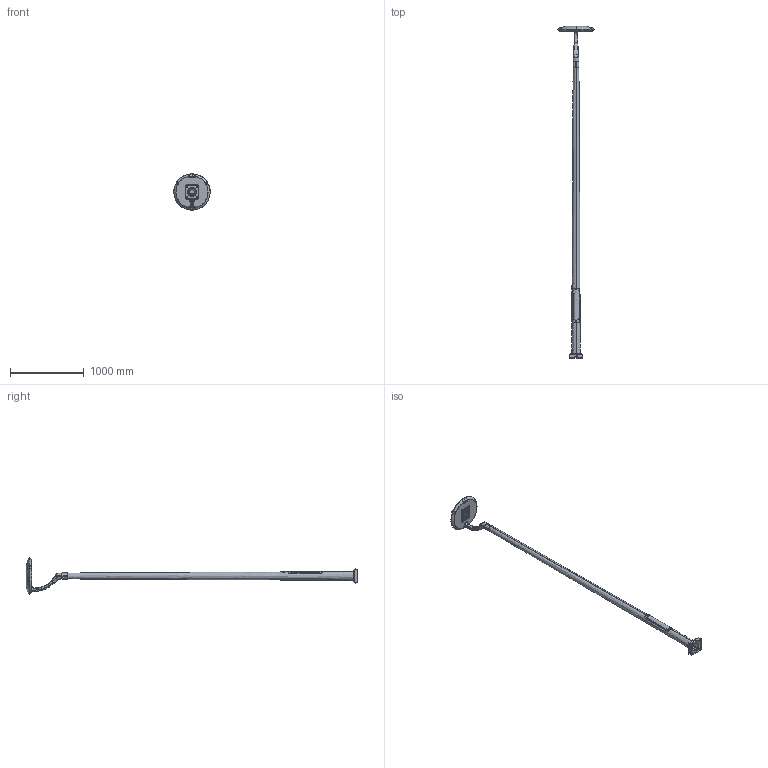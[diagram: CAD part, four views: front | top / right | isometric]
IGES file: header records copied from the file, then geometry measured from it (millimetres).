
Start section: SolidWorks IGES file using analytic representation for surfaces
Global section: file name: F:\F\2. ÀÐÕÈÂ ÄÅÊÎÐÀÒÈÂÍÛÕ ÎÏÎÐ\ÊÀÒÀËÎÃ ÀÊÑÈÔÎÐÌÀ\ORBA\orba-1-4(40C)-(Ê170-130-4õ14)-ö+ïî\ìîäåëè äëÿ ñêà÷èâàíèÿ\orba-1-4(40C)-(Ê170-130-4õ14)-ö+ïî.IGS; native system: SolidWorks 2020; preprocessor: SolidWorks 2020; author: Åêàòåðèíà; date: 210708.172537; units: millimetre
Bounding box: 489.88 x 4489.07 x 490 mm (x, y, z)
Surface area: 3314427.9 mm2 (no closed solid volume)
Topology: 0 solids, 0 shells, 907 faces, 15625 edges, 15617 vertices
Faces by surface type: revolution 458, bspline 449
